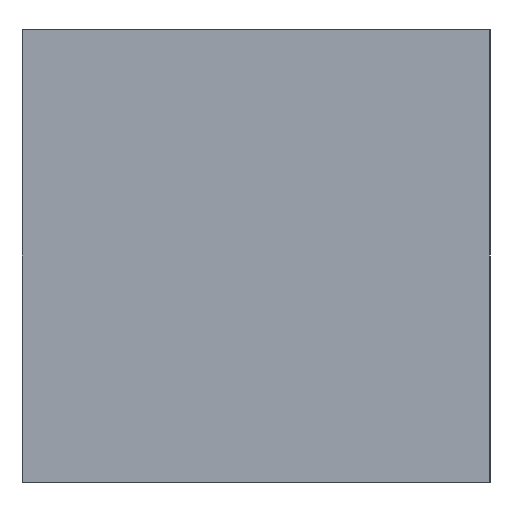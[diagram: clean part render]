
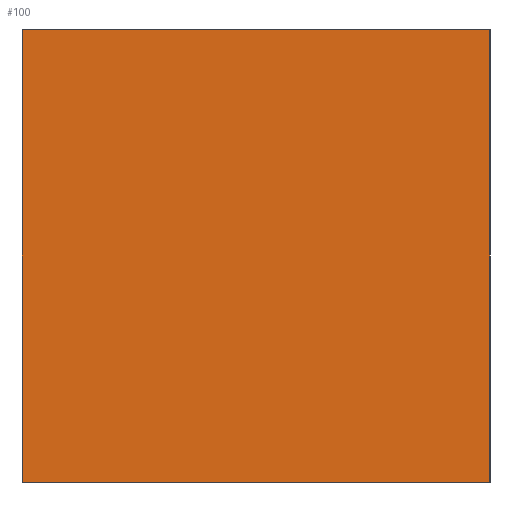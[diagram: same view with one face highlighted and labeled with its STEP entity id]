
A CAD part, left-side view. The second image highlights one B-rep face of the part: STEP entity #100.
In plain terms, the highlighted planar face has unit normal (-1, 0, 0).
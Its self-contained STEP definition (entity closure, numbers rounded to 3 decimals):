
#20 = CARTESIAN_POINT ( 'NONE',  ( -56., -25.5, 49.3 ) ) ;
#36 = CARTESIAN_POINT ( 'NONE',  ( -56., -25.5, 49.3 ) ) ;
#49 = VECTOR ( 'NONE', #52, 1000. ) ;
#52 = DIRECTION ( 'NONE',  ( 0., 0., -1. ) ) ;
#56 = CARTESIAN_POINT ( 'NONE',  ( -56., 25.5, 49.3 ) ) ;
#100 = ADVANCED_FACE ( 'NONE', ( #715 ), #933, .F. ) ;
#110 = ORIENTED_EDGE ( 'NONE', *, *, #396, .F. ) ;
#178 = LINE ( 'NONE', #36, #848 ) ;
#195 = DIRECTION ( 'NONE',  ( 1., 0., 0. ) ) ;
#213 = AXIS2_PLACEMENT_3D ( 'NONE', #455, #195, #783 ) ;
#239 = DIRECTION ( 'NONE',  ( 0., -1., 0. ) ) ;
#243 = LINE ( 'NONE', #296, #49 ) ;
#293 = DIRECTION ( 'NONE',  ( 0., 0., -1. ) ) ;
#296 = CARTESIAN_POINT ( 'NONE',  ( -56., 25.5, 49.3 ) ) ;
#297 = VERTEX_POINT ( 'NONE', #744 ) ;
#303 = VERTEX_POINT ( 'NONE', #56 ) ;
#304 = VECTOR ( 'NONE', #239, 1000. ) ;
#314 = VERTEX_POINT ( 'NONE', #486 ) ;
#322 = CARTESIAN_POINT ( 'NONE',  ( -56., 25.5, 0. ) ) ;
#396 = EDGE_CURVE ( 'NONE', #303, #704, #813, .T. ) ;
#455 = CARTESIAN_POINT ( 'NONE',  ( -56., 25.5, 49.3 ) ) ;
#461 = EDGE_CURVE ( 'NONE', #297, #314, #467, .T. ) ;
#467 = LINE ( 'NONE', #322, #719 ) ;
#486 = CARTESIAN_POINT ( 'NONE',  ( -56., -25.5, 0. ) ) ;
#514 = ORIENTED_EDGE ( 'NONE', *, *, #461, .T. ) ;
#544 = ORIENTED_EDGE ( 'NONE', *, *, #1076, .T. ) ;
#668 = CARTESIAN_POINT ( 'NONE',  ( -56., 25.5, 49.3 ) ) ;
#704 = VERTEX_POINT ( 'NONE', #20 ) ;
#715 = FACE_OUTER_BOUND ( 'NONE', #857, .T. ) ;
#719 = VECTOR ( 'NONE', #1078, 1000. ) ;
#744 = CARTESIAN_POINT ( 'NONE',  ( -56., 25.5, 0. ) ) ;
#783 = DIRECTION ( 'NONE',  ( 0., 0., -1. ) ) ;
#813 = LINE ( 'NONE', #668, #304 ) ;
#848 = VECTOR ( 'NONE', #293, 1000. ) ;
#857 = EDGE_LOOP ( 'NONE', ( #514, #896, #110, #544 ) ) ;
#896 = ORIENTED_EDGE ( 'NONE', *, *, #904, .F. ) ;
#904 = EDGE_CURVE ( 'NONE', #704, #314, #178, .T. ) ;
#933 = PLANE ( 'NONE',  #213 ) ;
#1076 = EDGE_CURVE ( 'NONE', #303, #297, #243, .T. ) ;
#1078 = DIRECTION ( 'NONE',  ( 0., -1., 0. ) ) ;
